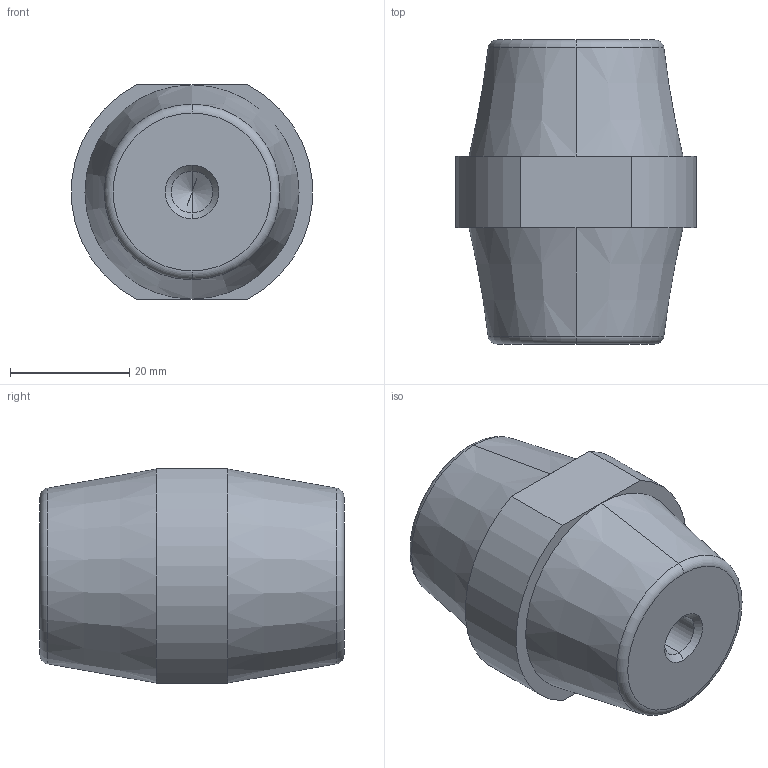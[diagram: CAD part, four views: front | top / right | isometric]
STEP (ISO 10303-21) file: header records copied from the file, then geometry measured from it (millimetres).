
FILE_DESCRIPTION (( 'STEP AP203' ), '1' );
FILE_NAME ('SM51.STEP', '2023-01-20T07:10:09', ( '' ), ( '' ), 'SwSTEP 2.0', 'SolidWorks 2018', '' );
FILE_SCHEMA (( 'CONFIG_CONTROL_DESIGN' ));
Length unit declared in the file: millimetre
Products named in the file (1): SM51
Bounding box: 40.36 x 51 x 36 mm (x, y, z)
Volume: 46078.4 mm3; surface area: 7746.3 mm2
Topology: 1 solids, 1 shells, 28 faces, 60 edges, 34 vertices
Faces by surface type: cone 12, cylinder 6, plane 6, torus 4
Entity records: 809 total; most frequent: DIRECTION 146, CARTESIAN_POINT 119, ORIENTED_EDGE 112, AXIS2_PLACEMENT_3D 61, EDGE_CURVE 56, VERTEX_POINT 34, CIRCLE 32, EDGE_LOOP 32
